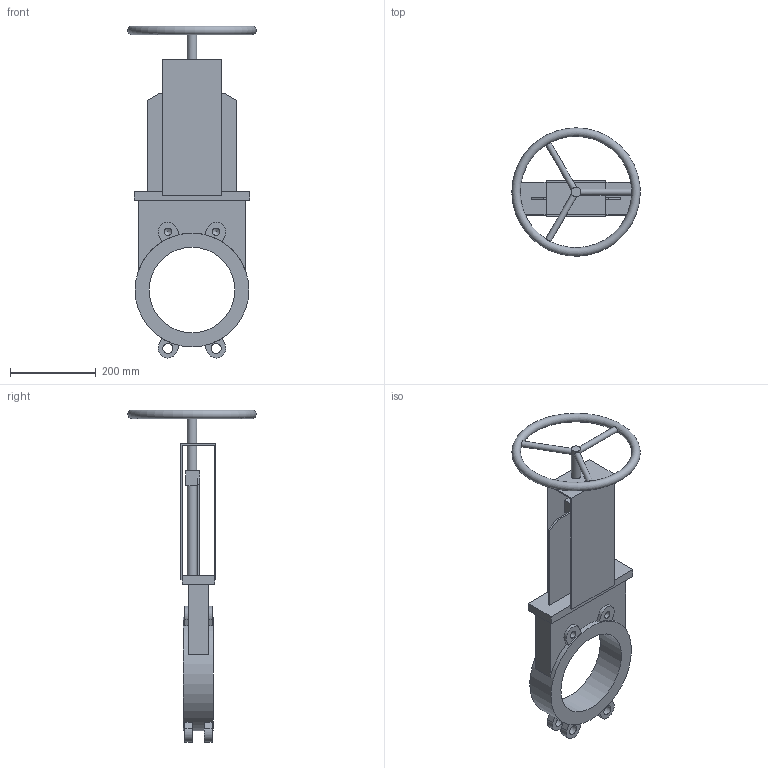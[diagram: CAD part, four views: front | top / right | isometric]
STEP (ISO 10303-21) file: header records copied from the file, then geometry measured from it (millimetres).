
FILE_DESCRIPTION(('STEP AP203'), '1');
FILE_NAME('Çàäâèæêà øèáåðíàÿ ìåæôëàíöåâàÿ K51GV DN200', '', ('UNSPECIFIED'), ('UNSPECIFIED'), 'ASCON STEP Converter 1.6', 'ASCON Math Kernel', '');
FILE_SCHEMA(('CONFIG_CONTROL_DESIGN'));
Length unit declared in the file: millimetre
Bounding box: 299.98 x 299.84 x 775.75 mm (x, y, z)
Volume: 4471134.8 mm3; surface area: 664043.1 mm2
Topology: 1 solids, 1 shells, 99 faces, 276 edges, 180 vertices
Faces by surface type: plane 70, cylinder 24, cone 4, torus 1
Full cylindrical faces by diameter (mm): 14 x3, 17.294 x4, 22 x3, 23 x4, 200 x1, 266 x1
Entity records: 4818 total; most frequent: CARTESIAN_POINT 1511, ORIENTED_EDGE 496, DIRECTION 490, EDGE_CURVE 248, VERTEX_POINT 178, AXIS2_PLACEMENT_3D 168, LINE 154, VECTOR 154
